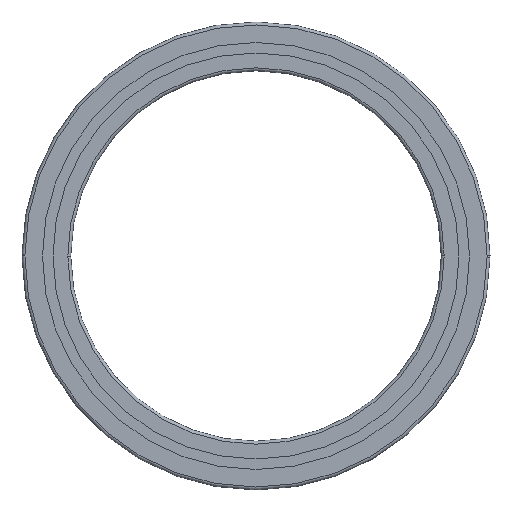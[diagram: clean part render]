
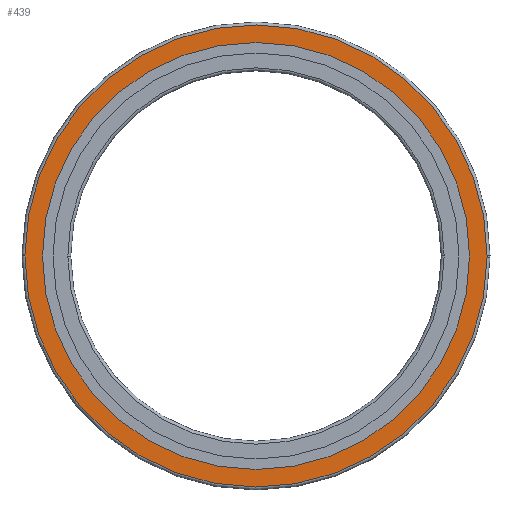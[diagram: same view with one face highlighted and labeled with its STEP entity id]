
A CAD part, front view. The second image highlights one B-rep face of the part: STEP entity #439.
In plain terms, the highlighted planar face has unit normal (0, -1, 0).
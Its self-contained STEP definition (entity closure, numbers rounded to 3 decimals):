
#317=VERTEX_POINT('',#855);
#357=EDGE_CURVE('',#317,#615,#902,.T.);
#371=VERTEX_POINT('',#916);
#439=ADVANCED_FACE('',(#994,#995),#996,.F.);
#447=EDGE_CURVE('',#627,#497,#1004,.T.);
#497=VERTEX_POINT('',#1059);
#615=VERTEX_POINT('',#1193);
#627=VERTEX_POINT('',#1207);
#629=EDGE_CURVE('',#759,#627,#1209,.T.);
#657=EDGE_CURVE('',#371,#759,#1240,.T.);
#749=EDGE_CURVE('',#497,#371,#1345,.T.);
#759=VERTEX_POINT('',#1355);
#771=EDGE_CURVE('',#615,#317,#1369,.T.);
#855=CARTESIAN_POINT('',(109.5,0.0,0.));
#902=CIRCLE('',#1514,109.5);
#916=CARTESIAN_POINT('',(-118.498,0.0,0.733));
#994=FACE_OUTER_BOUND('',#1625,.T.);
#995=FACE_BOUND('',#1626,.T.);
#996=PLANE('',#1627);
#1004=CIRCLE('',#1635,118.5);
#1059=CARTESIAN_POINT('',(118.5,0.0,0.0));
#1193=CARTESIAN_POINT('',(-109.5,0.0,0.0));
#1207=CARTESIAN_POINT('',(118.498,0.0,-0.733));
#1209=CIRCLE('',#1892,118.5);
#1240=CIRCLE('',#1932,118.5);
#1345=CIRCLE('',#2062,118.5);
#1355=CARTESIAN_POINT('',(-118.5,0.0,0.));
#1369=CIRCLE('',#2088,109.5);
#1514=AXIS2_PLACEMENT_3D('',#2236,#2237,#2238);
#1625=EDGE_LOOP('',(#2348,#2349,#2350,#2351));
#1626=EDGE_LOOP('',(#2352,#2353));
#1627=AXIS2_PLACEMENT_3D('',#2354,#2355,#2356);
#1635=AXIS2_PLACEMENT_3D('',#2358,#2359,#2360);
#1892=AXIS2_PLACEMENT_3D('',#2632,#2633,#2634);
#1932=AXIS2_PLACEMENT_3D('',#2680,#2681,#2682);
#2062=AXIS2_PLACEMENT_3D('',#2847,#2848,#2849);
#2088=AXIS2_PLACEMENT_3D('',#2875,#2876,#2877);
#2236=CARTESIAN_POINT('',(0.0,0.0,0.0));
#2237=DIRECTION('',(0.0,-1.0,0.0));
#2238=DIRECTION('',(1.0,0.0,0.0));
#2348=ORIENTED_EDGE('',*,*,#629,.T.);
#2349=ORIENTED_EDGE('',*,*,#447,.T.);
#2350=ORIENTED_EDGE('',*,*,#749,.T.);
#2351=ORIENTED_EDGE('',*,*,#657,.T.);
#2352=ORIENTED_EDGE('',*,*,#771,.F.);
#2353=ORIENTED_EDGE('',*,*,#357,.F.);
#2354=CARTESIAN_POINT('',(0.0,0.0,0.0));
#2355=DIRECTION('',(0.0,1.0,0.0));
#2356=DIRECTION('',(1.0,0.0,-0.0));
#2358=CARTESIAN_POINT('',(0.0,0.0,0.0));
#2359=DIRECTION('',(0.0,-1.0,0.0));
#2360=DIRECTION('',(-1.0,0.0,0.0));
#2632=CARTESIAN_POINT('',(0.0,0.0,0.0));
#2633=DIRECTION('',(0.0,-1.0,0.0));
#2634=DIRECTION('',(-1.0,0.0,0.0));
#2680=CARTESIAN_POINT('',(0.0,0.0,0.0));
#2681=DIRECTION('',(0.0,-1.0,0.0));
#2682=DIRECTION('',(1.0,0.0,0.0));
#2847=CARTESIAN_POINT('',(0.0,0.0,0.0));
#2848=DIRECTION('',(0.0,-1.0,0.0));
#2849=DIRECTION('',(1.0,0.0,0.0));
#2875=CARTESIAN_POINT('',(0.0,0.0,0.0));
#2876=DIRECTION('',(0.0,-1.0,0.0));
#2877=DIRECTION('',(-1.0,0.0,0.0));
